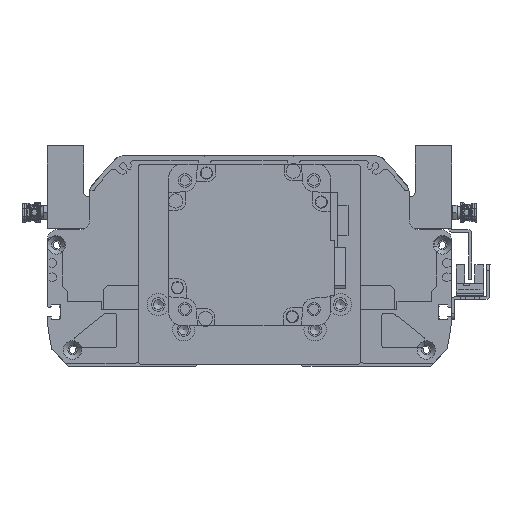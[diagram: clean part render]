
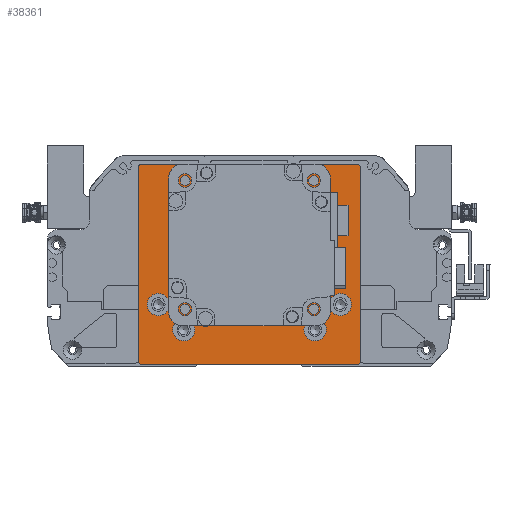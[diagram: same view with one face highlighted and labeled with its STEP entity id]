
A CAD part, front view. The second image highlights one B-rep face of the part: STEP entity #38361.
In plain terms, the highlighted planar face has unit normal (0, -1, 0) as drawn and (0, 0, 1) by its records, which use the part's own axes.
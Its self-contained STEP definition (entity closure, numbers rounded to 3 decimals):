
#2992=FACE_BOUND('',#9582,.T.);
#2993=FACE_BOUND('',#9583,.T.);
#2994=FACE_BOUND('',#9584,.T.);
#2995=FACE_BOUND('',#9585,.T.);
#2996=FACE_BOUND('',#9586,.T.);
#2997=FACE_BOUND('',#9587,.T.);
#2998=FACE_BOUND('',#9588,.T.);
#2999=FACE_BOUND('',#9589,.T.);
#3000=FACE_BOUND('',#9590,.T.);
#5054=CIRCLE('',#42944,2.459);
#5055=CIRCLE('',#42947,2.459);
#5056=CIRCLE('',#42955,2.459);
#5057=CIRCLE('',#42957,2.459);
#5060=CIRCLE('',#42962,5.5);
#5063=CIRCLE('',#42968,5.5);
#5066=CIRCLE('',#42974,5.5);
#5069=CIRCLE('',#42980,5.5);
#5071=CIRCLE('',#42985,35.);
#7090=FACE_OUTER_BOUND('',#9581,.T.);
#9581=EDGE_LOOP('',(#34873,#34874,#34875,#34876,#34877,#34878,#34879,#34880));
#9582=EDGE_LOOP('',(#34881));
#9583=EDGE_LOOP('',(#34882));
#9584=EDGE_LOOP('',(#34883));
#9585=EDGE_LOOP('',(#34884));
#9586=EDGE_LOOP('',(#34885));
#9587=EDGE_LOOP('',(#34886));
#9588=EDGE_LOOP('',(#34887));
#9589=EDGE_LOOP('',(#34888));
#9590=EDGE_LOOP('',(#34889));
#12449=LINE('',#68599,#15368);
#12452=LINE('',#68608,#15371);
#12455=LINE('',#68613,#15374);
#12457=LINE('',#68616,#15376);
#12458=LINE('',#68619,#15377);
#12460=LINE('',#68623,#15379);
#12462=LINE('',#68627,#15381);
#12475=LINE('',#68689,#15394);
#15368=VECTOR('',#53889,10.);
#15371=VECTOR('',#53898,10.);
#15374=VECTOR('',#53903,10.);
#15376=VECTOR('',#53907,10.);
#15377=VECTOR('',#53910,10.);
#15379=VECTOR('',#53914,10.);
#15381=VECTOR('',#53918,10.);
#15394=VECTOR('',#53997,10.);
#18988=VERTEX_POINT('',#68592);
#18989=VERTEX_POINT('',#68596);
#18990=VERTEX_POINT('',#68598);
#18991=VERTEX_POINT('',#68602);
#18992=VERTEX_POINT('',#68606);
#18993=VERTEX_POINT('',#68607);
#18994=VERTEX_POINT('',#68612);
#18995=VERTEX_POINT('',#68618);
#18996=VERTEX_POINT('',#68622);
#18997=VERTEX_POINT('',#68626);
#18998=VERTEX_POINT('',#68630);
#18999=VERTEX_POINT('',#68634);
#19002=VERTEX_POINT('',#68643);
#19005=VERTEX_POINT('',#68654);
#19008=VERTEX_POINT('',#68665);
#19011=VERTEX_POINT('',#68676);
#19013=VERTEX_POINT('',#68685);
#24297=EDGE_CURVE('',#18988,#18988,#5054,.T.);
#24300=EDGE_CURVE('',#18990,#18989,#12449,.T.);
#24302=EDGE_CURVE('',#18991,#18991,#5055,.T.);
#24304=EDGE_CURVE('',#18992,#18993,#12452,.T.);
#24307=EDGE_CURVE('',#18994,#18993,#12455,.T.);
#24309=EDGE_CURVE('',#18994,#18989,#12457,.T.);
#24310=EDGE_CURVE('',#18990,#18995,#12458,.T.);
#24312=EDGE_CURVE('',#18996,#18995,#12460,.T.);
#24314=EDGE_CURVE('',#18996,#18997,#12462,.T.);
#24316=EDGE_CURVE('',#18998,#18998,#5056,.T.);
#24318=EDGE_CURVE('',#18999,#18999,#5057,.T.);
#24322=EDGE_CURVE('',#19002,#19002,#5060,.T.);
#24327=EDGE_CURVE('',#19005,#19005,#5063,.T.);
#24332=EDGE_CURVE('',#19008,#19008,#5066,.T.);
#24337=EDGE_CURVE('',#19011,#19011,#5069,.T.);
#24341=EDGE_CURVE('',#19013,#19013,#5071,.T.);
#24343=EDGE_CURVE('',#18992,#18997,#12475,.T.);
#34873=ORIENTED_EDGE('',*,*,#24304,.F.);
#34874=ORIENTED_EDGE('',*,*,#24343,.T.);
#34875=ORIENTED_EDGE('',*,*,#24314,.F.);
#34876=ORIENTED_EDGE('',*,*,#24312,.T.);
#34877=ORIENTED_EDGE('',*,*,#24310,.F.);
#34878=ORIENTED_EDGE('',*,*,#24300,.T.);
#34879=ORIENTED_EDGE('',*,*,#24309,.F.);
#34880=ORIENTED_EDGE('',*,*,#24307,.T.);
#34881=ORIENTED_EDGE('',*,*,#24316,.T.);
#34882=ORIENTED_EDGE('',*,*,#24302,.T.);
#34883=ORIENTED_EDGE('',*,*,#24318,.T.);
#34884=ORIENTED_EDGE('',*,*,#24297,.T.);
#34885=ORIENTED_EDGE('',*,*,#24322,.T.);
#34886=ORIENTED_EDGE('',*,*,#24327,.T.);
#34887=ORIENTED_EDGE('',*,*,#24332,.T.);
#34888=ORIENTED_EDGE('',*,*,#24337,.T.);
#34889=ORIENTED_EDGE('',*,*,#24341,.T.);
#36358=PLANE('',#42987);
#38361=ADVANCED_FACE('',(#7090,#2992,#2993,#2994,#2995,#2996,#2997,#2998,
#2999,#3000),#36358,.T.);
#42944=AXIS2_PLACEMENT_3D('',#68593,#53883,#53884);
#42947=AXIS2_PLACEMENT_3D('',#68603,#53893,#53894);
#42955=AXIS2_PLACEMENT_3D('',#68631,#53922,#53923);
#42957=AXIS2_PLACEMENT_3D('',#68635,#53927,#53928);
#42962=AXIS2_PLACEMENT_3D('',#68644,#53938,#53939);
#42968=AXIS2_PLACEMENT_3D('',#68655,#53952,#53953);
#42974=AXIS2_PLACEMENT_3D('',#68666,#53966,#53967);
#42980=AXIS2_PLACEMENT_3D('',#68677,#53980,#53981);
#42985=AXIS2_PLACEMENT_3D('',#68686,#53992,#53993);
#42987=AXIS2_PLACEMENT_3D('',#68690,#53998,#53999);
#53883=DIRECTION('center_axis',(0.,0.,-1.));
#53884=DIRECTION('ref_axis',(1.,0.,0.));
#53889=DIRECTION('',(-1.,0.,0.));
#53893=DIRECTION('center_axis',(0.,0.,-1.));
#53894=DIRECTION('ref_axis',(1.,0.,0.));
#53898=DIRECTION('',(-0.707,0.707,0.));
#53903=DIRECTION('',(0.,-1.,0.));
#53907=DIRECTION('',(0.707,0.707,0.));
#53910=DIRECTION('',(0.707,-0.707,0.));
#53914=DIRECTION('',(0.,1.,0.));
#53918=DIRECTION('',(-0.707,-0.707,0.));
#53922=DIRECTION('center_axis',(0.,0.,-1.));
#53923=DIRECTION('ref_axis',(1.,0.,0.));
#53927=DIRECTION('center_axis',(0.,0.,-1.));
#53928=DIRECTION('ref_axis',(1.,0.,0.));
#53938=DIRECTION('center_axis',(0.,0.,-1.));
#53939=DIRECTION('ref_axis',(1.,0.,0.));
#53952=DIRECTION('center_axis',(0.,0.,-1.));
#53953=DIRECTION('ref_axis',(1.,0.,0.));
#53966=DIRECTION('center_axis',(0.,0.,-1.));
#53967=DIRECTION('ref_axis',(1.,0.,0.));
#53980=DIRECTION('center_axis',(0.,0.,-1.));
#53981=DIRECTION('ref_axis',(1.,0.,0.));
#53992=DIRECTION('center_axis',(0.,0.,-1.));
#53993=DIRECTION('ref_axis',(1.,0.,0.));
#53997=DIRECTION('',(1.,0.,0.));
#53998=DIRECTION('center_axis',(0.,0.,1.));
#53999=DIRECTION('ref_axis',(1.,0.,0.));
#68592=CARTESIAN_POINT('',(29.361,41.32,89.));
#68593=CARTESIAN_POINT('Origin',(31.82,41.32,89.));
#68596=CARTESIAN_POINT('',(-54.,49.5,89.));
#68598=CARTESIAN_POINT('',(54.,49.5,89.));
#68599=CARTESIAN_POINT('',(55.,49.5,89.));
#68602=CARTESIAN_POINT('',(-34.278,41.32,89.));
#68603=CARTESIAN_POINT('Origin',(-31.82,41.32,89.));
#68606=CARTESIAN_POINT('',(-54.,-49.5,89.));
#68607=CARTESIAN_POINT('',(-55.,-48.5,89.));
#68608=CARTESIAN_POINT('',(-53.125,-50.375,89.));
#68612=CARTESIAN_POINT('',(-55.,48.5,89.));
#68613=CARTESIAN_POINT('',(-55.,49.5,89.));
#68616=CARTESIAN_POINT('',(-53.125,50.375,89.));
#68618=CARTESIAN_POINT('',(55.,48.5,89.));
#68619=CARTESIAN_POINT('',(53.125,50.375,89.));
#68622=CARTESIAN_POINT('',(55.,-48.5,89.));
#68623=CARTESIAN_POINT('',(55.,-49.5,89.));
#68626=CARTESIAN_POINT('',(54.,-49.5,89.));
#68627=CARTESIAN_POINT('',(53.125,-50.375,89.));
#68630=CARTESIAN_POINT('',(29.361,-22.32,89.));
#68631=CARTESIAN_POINT('Origin',(31.82,-22.32,89.));
#68634=CARTESIAN_POINT('',(-34.278,-22.32,89.));
#68635=CARTESIAN_POINT('Origin',(-31.82,-22.32,89.));
#68643=CARTESIAN_POINT('',(27.,-32.5,89.));
#68644=CARTESIAN_POINT('Origin',(32.5,-32.5,89.));
#68654=CARTESIAN_POINT('',(-50.5,-20.,89.));
#68655=CARTESIAN_POINT('Origin',(-45.,-20.,89.));
#68665=CARTESIAN_POINT('',(-38.,-32.5,89.));
#68666=CARTESIAN_POINT('Origin',(-32.5,-32.5,89.));
#68676=CARTESIAN_POINT('',(39.5,-20.,89.));
#68677=CARTESIAN_POINT('Origin',(45.,-20.,89.));
#68685=CARTESIAN_POINT('',(-35.,9.5,89.));
#68686=CARTESIAN_POINT('Origin',(0.,9.5,89.));
#68689=CARTESIAN_POINT('',(-55.,-49.5,89.));
#68690=CARTESIAN_POINT('Origin',(0.,0.,
89.));
